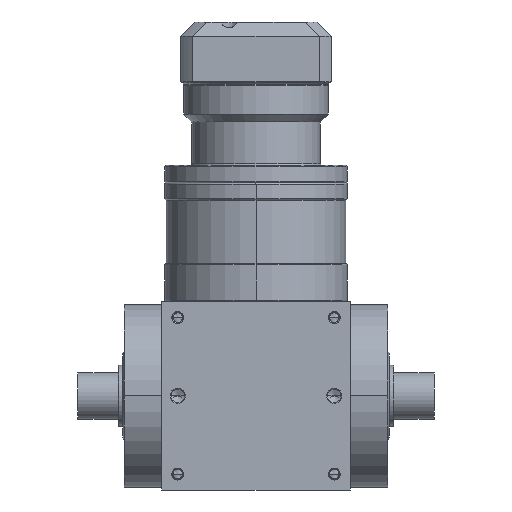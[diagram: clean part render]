
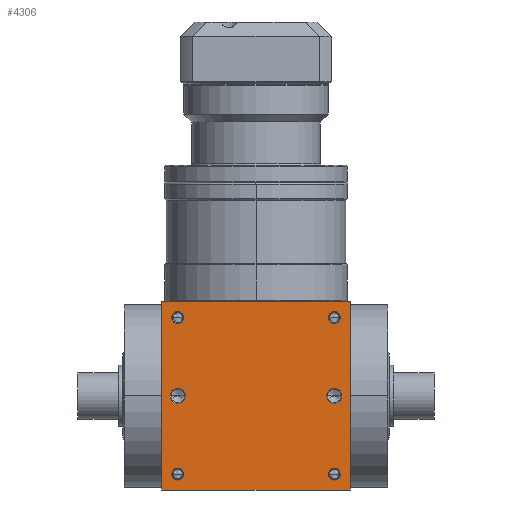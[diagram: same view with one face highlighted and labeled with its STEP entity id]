
A CAD part, front view. The second image highlights one B-rep face of the part: STEP entity #4306.
In plain terms, the highlighted planar face has unit normal (0, -1, 0).
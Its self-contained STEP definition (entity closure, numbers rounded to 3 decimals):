
#5=DIRECTION('',(1.,0.,0.));
#6=VECTOR('',#5,65.);
#7=CARTESIAN_POINT('',(-32.5,-32.5,-32.5));
#8=LINE('',#7,#6);
#155=DIRECTION('',(0.,0.,1.));
#156=VECTOR('',#155,65.);
#157=CARTESIAN_POINT('',(32.5,-32.5,-32.5));
#158=LINE('',#157,#156);
#209=DIRECTION('',(0.,0.,1.));
#210=VECTOR('',#209,65.);
#211=CARTESIAN_POINT('',(-32.5,-32.5,-32.5));
#212=LINE('',#211,#210);
#213=CARTESIAN_POINT('',(27.,-32.5,27.));
#214=DIRECTION('',(0.,1.,0.));
#215=DIRECTION('',(-1.,0.,0.));
#216=AXIS2_PLACEMENT_3D('',#213,#214,#215);
#218=CARTESIAN_POINT('',(27.,-32.5,27.));
#219=DIRECTION('',(0.,1.,0.));
#220=DIRECTION('',(1.,0.,0.));
#221=AXIS2_PLACEMENT_3D('',#218,#219,#220);
#223=CARTESIAN_POINT('',(-27.,-32.5,27.));
#224=DIRECTION('',(0.,1.,0.));
#225=DIRECTION('',(-1.,0.,0.));
#226=AXIS2_PLACEMENT_3D('',#223,#224,#225);
#228=CARTESIAN_POINT('',(-27.,-32.5,27.));
#229=DIRECTION('',(0.,1.,0.));
#230=DIRECTION('',(1.,0.,0.));
#231=AXIS2_PLACEMENT_3D('',#228,#229,#230);
#233=CARTESIAN_POINT('',(27.,-32.5,-27.));
#234=DIRECTION('',(0.,1.,0.));
#235=DIRECTION('',(-1.,0.,0.));
#236=AXIS2_PLACEMENT_3D('',#233,#234,#235);
#238=CARTESIAN_POINT('',(27.,-32.5,-27.));
#239=DIRECTION('',(0.,1.,0.));
#240=DIRECTION('',(1.,0.,0.));
#241=AXIS2_PLACEMENT_3D('',#238,#239,#240);
#243=CARTESIAN_POINT('',(-27.,-32.5,-27.));
#244=DIRECTION('',(0.,1.,0.));
#245=DIRECTION('',(-1.,0.,0.));
#246=AXIS2_PLACEMENT_3D('',#243,#244,#245);
#248=CARTESIAN_POINT('',(-27.,-32.5,-27.));
#249=DIRECTION('',(0.,1.,0.));
#250=DIRECTION('',(1.,0.,0.));
#251=AXIS2_PLACEMENT_3D('',#248,#249,#250);
#253=CARTESIAN_POINT('',(-27.,-32.5,0.));
#254=DIRECTION('',(0.,1.,0.));
#255=DIRECTION('',(1.,0.,0.));
#256=AXIS2_PLACEMENT_3D('',#253,#254,#255);
#258=CARTESIAN_POINT('',(-27.,-32.5,0.));
#259=DIRECTION('',(0.,1.,0.));
#260=DIRECTION('',(-1.,0.,0.));
#261=AXIS2_PLACEMENT_3D('',#258,#259,#260);
#263=CARTESIAN_POINT('',(27.,-32.5,0.));
#264=DIRECTION('',(0.,1.,0.));
#265=DIRECTION('',(1.,0.,0.));
#266=AXIS2_PLACEMENT_3D('',#263,#264,#265);
#268=CARTESIAN_POINT('',(27.,-32.5,0.));
#269=DIRECTION('',(0.,1.,0.));
#270=DIRECTION('',(-1.,0.,0.));
#271=AXIS2_PLACEMENT_3D('',#268,#269,#270);
#285=DIRECTION('',(1.,0.,0.));
#286=VECTOR('',#285,65.);
#287=CARTESIAN_POINT('',(-32.5,-32.5,32.5));
#288=LINE('',#287,#286);
#3444=CARTESIAN_POINT('',(-32.5,-32.5,-32.5));
#3446=VERTEX_POINT('',#3444);
#3447=CARTESIAN_POINT('',(32.5,-32.5,-32.5));
#3448=VERTEX_POINT('',#3447);
#3452=CARTESIAN_POINT('',(-32.5,-32.5,32.5));
#3454=VERTEX_POINT('',#3452);
#3455=CARTESIAN_POINT('',(32.5,-32.5,32.5));
#3456=VERTEX_POINT('',#3455);
#3611=CARTESIAN_POINT('',(24.95,-32.5,27.));
#3612=CARTESIAN_POINT('',(29.05,-32.5,27.));
#3613=VERTEX_POINT('',#3611);
#3614=VERTEX_POINT('',#3612);
#3619=CARTESIAN_POINT('',(-29.05,-32.5,27.));
#3620=CARTESIAN_POINT('',(-24.95,-32.5,27.));
#3621=VERTEX_POINT('',#3619);
#3622=VERTEX_POINT('',#3620);
#3627=CARTESIAN_POINT('',(24.95,-32.5,-27.));
#3628=CARTESIAN_POINT('',(29.05,-32.5,-27.));
#3629=VERTEX_POINT('',#3627);
#3630=VERTEX_POINT('',#3628);
#3635=CARTESIAN_POINT('',(-29.05,-32.5,-27.));
#3636=CARTESIAN_POINT('',(-24.95,-32.5,-27.));
#3637=VERTEX_POINT('',#3635);
#3638=VERTEX_POINT('',#3636);
#3959=CARTESIAN_POINT('',(-24.4,-32.5,0.));
#3960=CARTESIAN_POINT('',(-29.6,-32.5,
0.));
#3961=VERTEX_POINT('',#3959);
#3962=VERTEX_POINT('',#3960);
#3967=CARTESIAN_POINT('',(29.6,-32.5,0.));
#3968=CARTESIAN_POINT('',(24.4,-32.5,0.));
#3969=VERTEX_POINT('',#3967);
#3970=VERTEX_POINT('',#3968);
#4258=CARTESIAN_POINT('',(-32.5,-32.5,-32.5));
#4259=DIRECTION('',(0.,-1.,0.));
#4260=DIRECTION('',(1.,0.,0.));
#4261=AXIS2_PLACEMENT_3D('',#4258,#4259,#4260);
#4262=PLANE('',#4261);
#4263=ORIENTED_EDGE('',*,*,#4098,.F.);
#4264=ORIENTED_EDGE('',*,*,#4141,.T.);
#4266=ORIENTED_EDGE('',*,*,#4265,.T.);
#4267=ORIENTED_EDGE('',*,*,#4220,.F.);
#4268=EDGE_LOOP('',(#4263,#4264,#4266,#4267));
#4269=FACE_OUTER_BOUND('',#4268,.F.);
#4271=ORIENTED_EDGE('',*,*,#4270,.F.);
#4273=ORIENTED_EDGE('',*,*,#4272,.F.);
#4274=EDGE_LOOP('',(#4271,#4273));
#4275=FACE_BOUND('',#4274,.F.);
#4277=ORIENTED_EDGE('',*,*,#4276,.F.);
#4279=ORIENTED_EDGE('',*,*,#4278,.F.);
#4280=EDGE_LOOP('',(#4277,#4279));
#4281=FACE_BOUND('',#4280,.F.);
#4283=ORIENTED_EDGE('',*,*,#4282,.F.);
#4285=ORIENTED_EDGE('',*,*,#4284,.F.);
#4286=EDGE_LOOP('',(#4283,#4285));
#4287=FACE_BOUND('',#4286,.F.);
#4289=ORIENTED_EDGE('',*,*,#4288,.F.);
#4291=ORIENTED_EDGE('',*,*,#4290,.F.);
#4292=EDGE_LOOP('',(#4289,#4291));
#4293=FACE_BOUND('',#4292,.F.);
#4295=ORIENTED_EDGE('',*,*,#4294,.F.);
#4297=ORIENTED_EDGE('',*,*,#4296,.F.);
#4298=EDGE_LOOP('',(#4295,#4297));
#4299=FACE_BOUND('',#4298,.F.);
#4301=ORIENTED_EDGE('',*,*,#4300,.F.);
#4303=ORIENTED_EDGE('',*,*,#4302,.F.);
#4304=EDGE_LOOP('',(#4301,#4303));
#4305=FACE_BOUND('',#4304,.F.);
#4306=ADVANCED_FACE('',(#4269,#4275,#4281,#4287,#4293,#4299,#4305),#4262,.T.);
#217=CIRCLE('',#216,2.05);
#222=CIRCLE('',#221,2.05);
#227=CIRCLE('',#226,2.05);
#232=CIRCLE('',#231,2.05);
#237=CIRCLE('',#236,2.05);
#242=CIRCLE('',#241,2.05);
#247=CIRCLE('',#246,2.05);
#252=CIRCLE('',#251,2.05);
#257=CIRCLE('',#256,2.6);
#262=CIRCLE('',#261,2.6);
#267=CIRCLE('',#266,2.6);
#272=CIRCLE('',#271,2.6);
#4098=EDGE_CURVE('',#3446,#3448,#8,.T.);
#4141=EDGE_CURVE('',#3446,#3454,#212,.T.);
#4220=EDGE_CURVE('',#3448,#3456,#158,.T.);
#4265=EDGE_CURVE('',#3454,#3456,#288,.T.);
#4270=EDGE_CURVE('',#3613,#3614,#217,.T.);
#4272=EDGE_CURVE('',#3614,#3613,#222,.T.);
#4276=EDGE_CURVE('',#3621,#3622,#227,.T.);
#4278=EDGE_CURVE('',#3622,#3621,#232,.T.);
#4282=EDGE_CURVE('',#3629,#3630,#237,.T.);
#4284=EDGE_CURVE('',#3630,#3629,#242,.T.);
#4288=EDGE_CURVE('',#3637,#3638,#247,.T.);
#4290=EDGE_CURVE('',#3638,#3637,#252,.T.);
#4294=EDGE_CURVE('',#3961,#3962,#257,.T.);
#4296=EDGE_CURVE('',#3962,#3961,#262,.T.);
#4300=EDGE_CURVE('',#3969,#3970,#267,.T.);
#4302=EDGE_CURVE('',#3970,#3969,#272,.T.);
